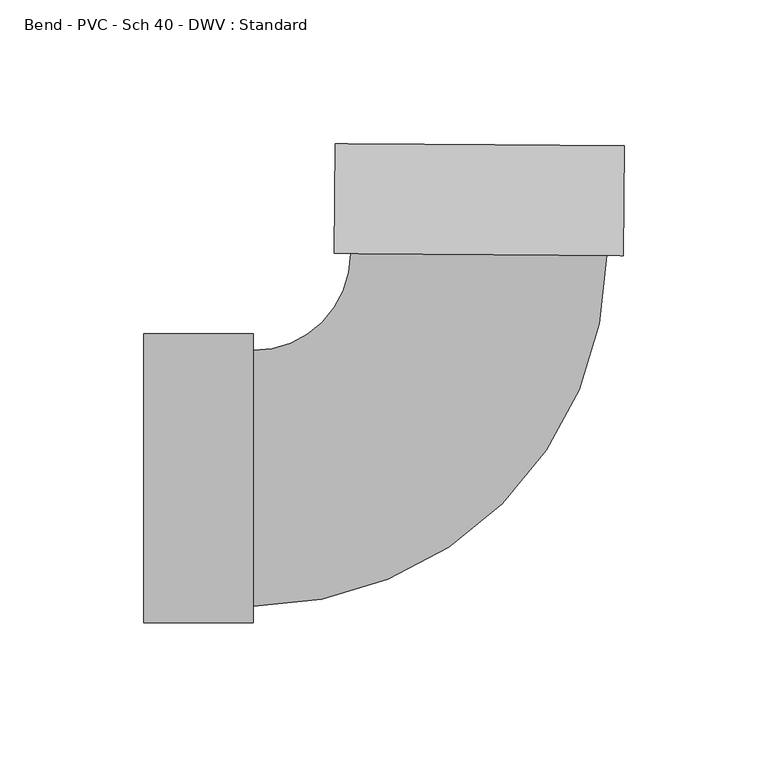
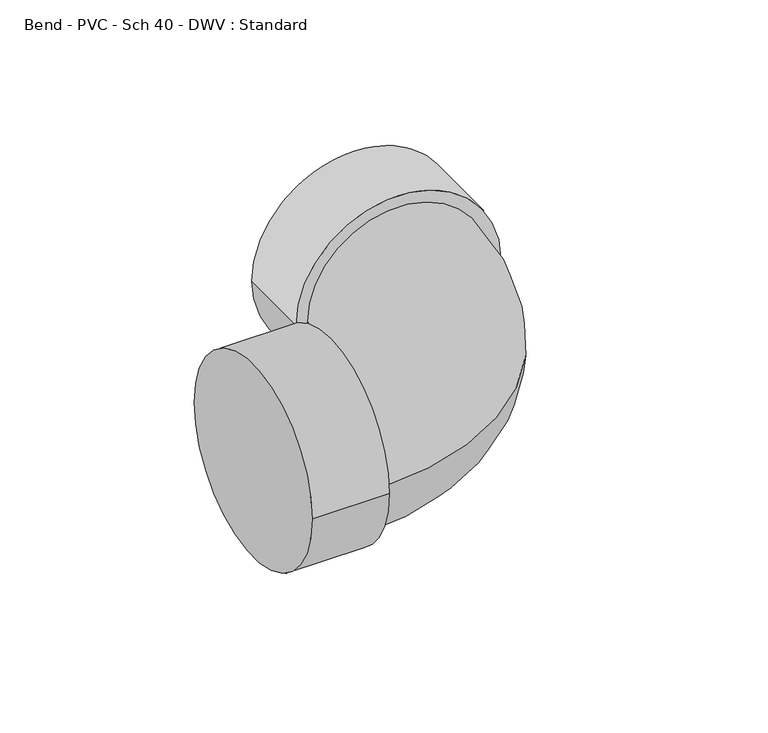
"""IFC4 building model written with IfcOpenShell, lengths in millimetres: pipe fitting geometry, Bend - PVC - Sch 40 - DWV : Standard."""

from ifc_helpers import new_model, si_unit, point, frame, origin, place, context, project, spatial, circle_curve, ellipse_curve, trimmed, source, transform, mapped, element, save
from ifc_brep_helpers import plane_surface, cylinder_surface, revolved_surface, advanced_brep


def bend_pvc_sch_40_dwv_standard_c5e05de8(model_context):
    return source(origin(), model_context, "Body", "AdvancedBrep", [
        advanced_brep(
        [(-115.9002, -50.2666, 0.0), (-115.9002, 50.2666, 0.0), (-77.8002, -50.2666, 0.0), (-77.8002, 50.2666, 0.0), (-77.8002, -44.45, 0.0), (-77.8002, 44.45, 0.0), (-43.8757675, 78.1254802, 0.0), (45.0218212, 77.4706992, 0.0), (50.8382634, 77.4278579, 0.0), (-49.6922097, 78.1683215, 0.0), (51.1188838, 115.5268244, 0.0), (-49.4115893, 116.2672881, 0.0)],
        [
            (0, 1, circle_curve(frame((-115.9002, 0.0, 0.0), z_axis=(-1.0, 0.0, 0.0), x_axis=(0.0, 1.0, 0.0)), 50.2666)),
            (1, 0, circle_curve(frame((-115.9002, 0.0, 0.0), z_axis=(-1.0, 0.0, 0.0), x_axis=(0.0, 1.0, 0.0)), 50.2666)),
            (2, 3, circle_curve(frame((-77.8002, 0.0, 0.0), z_axis=(1.0, 0.0, 0.0), x_axis=(0.0, 1.0, 0.0)), 50.2666)),
            (3, 2, circle_curve(frame((-77.8002, 0.0, 0.0), z_axis=(1.0, 0.0, 0.0), x_axis=(0.0, 1.0, 0.0)), 50.2666)),
            (4, 5, circle_curve(frame((-77.8002, 0.0, 0.0), z_axis=(-1.0, 0.0, 0.0), x_axis=(0.0, 1.0, 0.0)), 44.45)),
            (5, 4, circle_curve(frame((-77.8002, 0.0, 0.0), z_axis=(-1.0, 0.0, 0.0), x_axis=(0.0, 1.0, 0.0)), 44.45)),
            (0, 2),
            (3, 1),
            (6, 5, circle_curve(frame((-77.8002, 78.3753528, 0.0), z_axis=(0.0, 0.0, -1.0), x_axis=(0.0, -1.0, 0.0)), 33.9253528)),
            (4, 7, circle_curve(frame((-77.8002, 78.3753528, 0.0), z_axis=(0.0, 0.0, 1.0), x_axis=(0.0, -1.0, 0.0)), 122.8253528)),
            (7, 6, circle_curve(frame((0.5730268, 77.7980897, 0.0), z_axis=(-0.007365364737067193, -0.9999728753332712, 0.0), x_axis=(-0.9999728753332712, 0.007365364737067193, 0.0)), 44.45)),
            (6, 7, circle_curve(frame((0.5730268, 77.7980897, 0.0), z_axis=(-0.007365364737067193, -0.9999728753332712, 0.0), x_axis=(-0.9999728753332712, 0.007365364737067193, 0.0)), 44.45)),
            (8, 9, circle_curve(frame((0.5730268, 77.7980897, 0.0), z_axis=(-0.007365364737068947, -0.9999728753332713, 0.0), x_axis=(-0.9999728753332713, 0.007365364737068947, 0.0)), 50.2666)),
            (9, 8, circle_curve(frame((0.5730268, 77.7980897, 0.0), z_axis=(-0.007365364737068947, -0.9999728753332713, 0.0), x_axis=(-0.9999728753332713, 0.007365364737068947, 0.0)), 50.2666)),
            (10, 11, circle_curve(frame((0.8536472, 115.8970562, 0.0), z_axis=(0.007365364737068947, 0.9999728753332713, 0.0), x_axis=(-0.9999728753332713, 0.007365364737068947, 0.0)), 50.2666)),
            (11, 10, circle_curve(frame((0.8536472, 115.8970562, 0.0), z_axis=(0.007365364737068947, 0.9999728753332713, 0.0), x_axis=(-0.9999728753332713, 0.007365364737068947, 0.0)), 50.2666)),
            (8, 10),
            (11, 9),
        ],
        [
            plane_surface(frame((-115.9002, 0.0, 0.0), z_axis=(-1.0, 0.0, 0.0), x_axis=(0.0, 0.0, 1.0))),
            plane_surface(frame((-77.8002, 0.0, 0.0), z_axis=(1.0, 0.0, 0.0), x_axis=(0.0, 0.0, 1.0))),
            cylinder_surface(frame((-115.9002, 0.0, 0.0), z_axis=(-1.0, 0.0, 0.0), x_axis=(0.0, 1.0, 0.0)), 50.2666),
            revolved_surface(trimmed(ellipse_curve(frame((-77.8002, 0.0, 0.0), z_axis=(-1.0, 0.0, 0.0), x_axis=(0.0, 1.0, 0.0)), 44.45, 44.45), [point((-77.8002, -44.45, 0.0))], [point((-77.8002, 44.45, 0.0))], True, "CARTESIAN"), (-77.8002, 78.3753528, 0.0), (0.0, 0.0, 1.0)),
            revolved_surface(trimmed(ellipse_curve(frame((-77.8002, 0.0, 0.0), z_axis=(-1.0, 0.0, 0.0), x_axis=(0.0, 1.0, 0.0)), 44.45, 44.45), [point((-77.8002, 44.45, 0.0))], [point((-77.8002, -44.45, 0.0))], True, "CARTESIAN"), (-77.8002, 78.3753528, 0.0), (0.0, 0.0, 1.0)),
            plane_surface(frame((0.5730268, 77.7980897, 0.0), z_axis=(-0.007365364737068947, -0.9999728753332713, 0.0), x_axis=(0.0, 0.0, 1.0))),
            plane_surface(frame((0.8536472, 115.8970562, 0.0), z_axis=(0.007365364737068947, 0.9999728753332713, 0.0), x_axis=(0.0, 0.0, 1.0))),
            cylinder_surface(frame((0.5730268, 77.7980897, 0.0), z_axis=(-0.007365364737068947, -0.9999728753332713, 0.0), x_axis=(-0.9999728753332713, 0.007365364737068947, 0.0)), 50.2666),
        ],
        [
            (0, [[1, 2]]),
            (1, [[3, 4], [5, 6]]),
            (2, [[-1, 7, -4, 8]]),
            (2, [[-2, -8, -3, -7]]),
            (3, [[9, -5, 10, 11]]),
            (4, [[-9, 12, -10, -6]]),
            (5, [[13, 14], [-11, -12]]),
            (6, [[15, 16]]),
            (7, [[-13, 17, -16, 18]]),
            (7, [[-14, -18, -15, -17]]),
        ],
    ),
    ])


if __name__ == "__main__":
    model = new_model("IFC4")
    model_context = context("Model", 3, world=origin())
    ifc_project = project(units=[si_unit("LENGTHUNIT", "METRE", prefix="MILLI")], contexts=[model_context])
    site = spatial("IfcSite", under=ifc_project)
    building = spatial("IfcBuilding", under=site)
    placement = place(None, origin())
    bend_pvc_sch_40_dwv_standard_shape = bend_pvc_sch_40_dwv_standard_c5e05de8(model_context)
    element("IfcPipeFitting", 1, ObjectType="Bend - PVC - Sch 40 - DWV : Standard", at=placement, inside=building, context=model_context, shape_type="MappedRepresentation", body=[
        mapped(bend_pvc_sch_40_dwv_standard_shape, transform((0.0, 0.0, 0.0), x_axis=(1.0, 0.0, 0.0), y_axis=(0.0, 1.0, 0.0), z_axis=(0.0, 0.0, 1.0))),
    ])
    save(model, "model.ifc")
